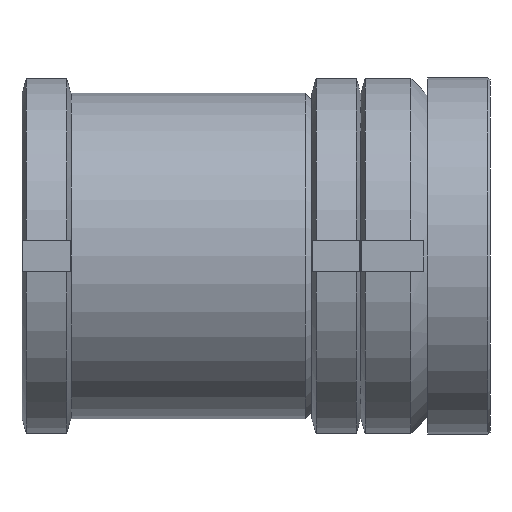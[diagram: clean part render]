
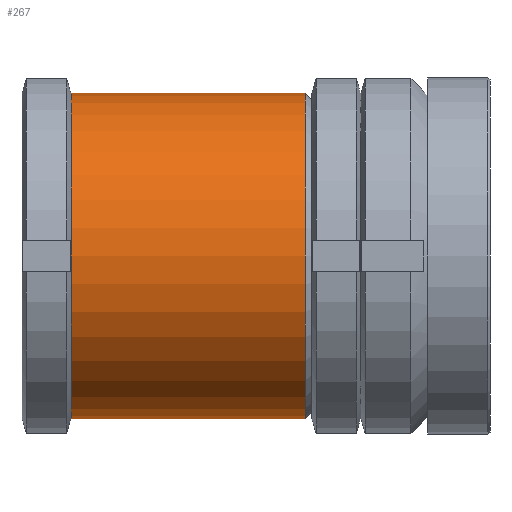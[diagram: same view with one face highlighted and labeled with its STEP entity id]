
A CAD part, front view. The second image highlights one B-rep face of the part: STEP entity #267.
In plain terms, the highlighted cylindrical face has radius 36.5 mm (diameter 73 mm), a full revolution.
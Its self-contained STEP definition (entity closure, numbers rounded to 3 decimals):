
#267 = ADVANCED_FACE( '', ( #386, #387 ), #388, .T. );
#386 = FACE_OUTER_BOUND( '', #594, .T. );
#387 = FACE_OUTER_BOUND( '', #595, .T. );
#388 = CYLINDRICAL_SURFACE( '', #596, 36.5 );
#594 = EDGE_LOOP( '', ( #927 ) );
#595 = EDGE_LOOP( '', ( #928 ) );
#596 = AXIS2_PLACEMENT_3D( '', #929, #930, #931 );
#927 = ORIENTED_EDGE( '', *, *, #1375, .F. );
#928 = ORIENTED_EDGE( '', *, *, #1409, .T. );
#929 = CARTESIAN_POINT( '', ( 0., 0., 0. ) );
#930 = DIRECTION( '', ( 0., 1., 0. ) );
#931 = DIRECTION( '', ( 0., 0., -1. ) );
#1375 = EDGE_CURVE( '', #1571, #1571, #1572, .T. );
#1409 = EDGE_CURVE( '', #1624, #1624, #1625, .T. );
#1571 = VERTEX_POINT( '', #1947 );
#1572 = CIRCLE( '', #1948, 36.5 );
#1624 = VERTEX_POINT( '', #2068 );
#1625 = CIRCLE( '', #2069, 36.5 );
#1947 = CARTESIAN_POINT( '', ( 0., 11., -36.5 ) );
#1948 = AXIS2_PLACEMENT_3D( '', #2512, #2513, #2514 );
#2068 = CARTESIAN_POINT( '', ( 0., 63.5, -36.5 ) );
#2069 = AXIS2_PLACEMENT_3D( '', #2553, #2554, #2555 );
#2512 = CARTESIAN_POINT( '', ( 0., 11., 0. ) );
#2513 = DIRECTION( '', ( 0., -1., 0. ) );
#2514 = DIRECTION( '', ( 0., 0., -1. ) );
#2553 = CARTESIAN_POINT( '', ( 0., 63.5, 0. ) );
#2554 = DIRECTION( '', ( 0., -1., 0. ) );
#2555 = DIRECTION( '', ( 0., 0., -1. ) );
